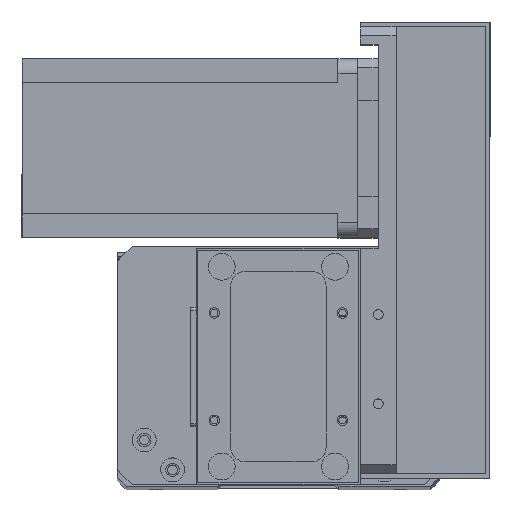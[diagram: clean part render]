
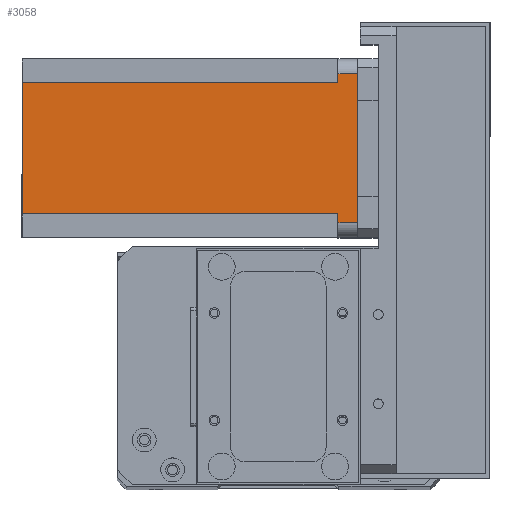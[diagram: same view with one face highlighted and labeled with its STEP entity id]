
A CAD part, top view. The second image highlights one B-rep face of the part: STEP entity #3058.
In plain terms, the highlighted planar face has unit normal (0, 0, 1) as drawn and (0, 1, 0) by its records, which use the part's own axes.
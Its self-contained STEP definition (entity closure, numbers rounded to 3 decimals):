
#168 = ORIENTED_EDGE ( 'NONE', *, *, #20510, .T. ) ;
#602 = DIRECTION ( 'NONE',  ( 0., 0., 1. ) ) ;
#1153 = EDGE_CURVE ( 'NONE', #3404, #27972, #17218, .T. ) ;
#1620 = CARTESIAN_POINT ( 'NONE',  ( 8., 60., -6.5 ) ) ;
#2156 = ORIENTED_EDGE ( 'NONE', *, *, #21351, .F. ) ;
#2426 = DIRECTION ( 'NONE',  ( -1., 0., 0. ) ) ;
#2834 = CARTESIAN_POINT ( 'NONE',  ( 0., 60., -112.5 ) ) ;
#2941 = DIRECTION ( 'NONE',  ( 0., 0., 1. ) ) ;
#2944 = CARTESIAN_POINT ( 'NONE',  ( 8., 60., -112.5 ) ) ;
#3058 = ADVANCED_FACE ( 'NONE', ( #16374 ), #14292, .T. ) ;
#3142 = VERTEX_POINT ( 'NONE', #16888 ) ;
#3285 = LINE ( 'NONE', #17467, #16836 ) ;
#3404 = VERTEX_POINT ( 'NONE', #15475 ) ;
#4067 = ORIENTED_EDGE ( 'NONE', *, *, #27971, .T. ) ;
#4589 = LINE ( 'NONE', #28761, #16705 ) ;
#4644 = ORIENTED_EDGE ( 'NONE', *, *, #23252, .F. ) ;
#4964 = EDGE_CURVE ( 'NONE', #28312, #27972, #3285, .T. ) ;
#6236 = CARTESIAN_POINT ( 'NONE',  ( 5., 60., 0. ) ) ;
#6977 = CARTESIAN_POINT ( 'NONE',  ( 8., 60., -112.5 ) ) ;
#6986 = EDGE_LOOP ( 'NONE', ( #20624, #168, #4644, #2156, #29101, #19843, #4067, #16005 ) ) ;
#7031 = CARTESIAN_POINT ( 'NONE',  ( 0., 60., -112.5 ) ) ;
#7080 = VECTOR ( 'NONE', #22110, 1000. ) ;
#7300 = CARTESIAN_POINT ( 'NONE',  ( 52., 60., -6.5 ) ) ;
#7868 = CARTESIAN_POINT ( 'NONE',  ( 52., 60., -112.5 ) ) ;
#11038 = LINE ( 'NONE', #2944, #29150 ) ;
#11118 = DIRECTION ( 'NONE',  ( 0., 0., 1. ) ) ;
#11308 = VECTOR ( 'NONE', #602, 1000. ) ;
#12909 = DIRECTION ( 'NONE',  ( 0., 0., -1. ) ) ;
#13015 = DIRECTION ( 'NONE',  ( -1., 0., 0. ) ) ;
#13022 = CARTESIAN_POINT ( 'NONE',  ( 52., 60., -6.5 ) ) ;
#13135 = LINE ( 'NONE', #1620, #7080 ) ;
#13360 = VECTOR ( 'NONE', #2426, 1000. ) ;
#13672 = VECTOR ( 'NONE', #27726, 1000. ) ;
#14065 = LINE ( 'NONE', #7031, #13360 ) ;
#14292 = PLANE ( 'NONE',  #24368 ) ;
#15475 = CARTESIAN_POINT ( 'NONE',  ( 5., 60., -6.5 ) ) ;
#16005 = ORIENTED_EDGE ( 'NONE', *, *, #1153, .T. ) ;
#16374 = FACE_OUTER_BOUND ( 'NONE', #6986, .T. ) ;
#16445 = CARTESIAN_POINT ( 'NONE',  ( 55., 60., 0. ) ) ;
#16588 = DIRECTION ( 'NONE',  ( 0., 1., 0. ) ) ;
#16591 = DIRECTION ( 'NONE',  ( 0., 0., -1. ) ) ;
#16705 = VECTOR ( 'NONE', #12909, 1000. ) ;
#16836 = VECTOR ( 'NONE', #13015, 1000. ) ;
#16888 = CARTESIAN_POINT ( 'NONE',  ( 55., 60., -6.5 ) ) ;
#17218 = LINE ( 'NONE', #29275, #22529 ) ;
#17354 = LINE ( 'NONE', #27838, #11308 ) ;
#17467 = CARTESIAN_POINT ( 'NONE',  ( 0., 60., 0. ) ) ;
#17730 = VERTEX_POINT ( 'NONE', #21264 ) ;
#19843 = ORIENTED_EDGE ( 'NONE', *, *, #26428, .F. ) ;
#20510 = EDGE_CURVE ( 'NONE', #28312, #3142, #4589, .T. ) ;
#20624 = ORIENTED_EDGE ( 'NONE', *, *, #4964, .F. ) ;
#21264 = CARTESIAN_POINT ( 'NONE',  ( 8., 60., -6.5 ) ) ;
#21351 = EDGE_CURVE ( 'NONE', #27227, #24759, #17354, .T. ) ;
#21858 = VERTEX_POINT ( 'NONE', #6977 ) ;
#22110 = DIRECTION ( 'NONE',  ( -1., 0., 0. ) ) ;
#22529 = VECTOR ( 'NONE', #11118, 1000. ) ;
#22536 = EDGE_CURVE ( 'NONE', #27227, #21858, #14065, .T. ) ;
#23252 = EDGE_CURVE ( 'NONE', #24759, #3142, #26489, .T. ) ;
#24368 = AXIS2_PLACEMENT_3D ( 'NONE', #2834, #16588, #2941 ) ;
#24759 = VERTEX_POINT ( 'NONE', #13022 ) ;
#26428 = EDGE_CURVE ( 'NONE', #17730, #21858, #11038, .T. ) ;
#26489 = LINE ( 'NONE', #7300, #13672 ) ;
#27227 = VERTEX_POINT ( 'NONE', #7868 ) ;
#27726 = DIRECTION ( 'NONE',  ( 1., 0., 0. ) ) ;
#27838 = CARTESIAN_POINT ( 'NONE',  ( 52., 60., -112.5 ) ) ;
#27972 = VERTEX_POINT ( 'NONE', #6236 ) ;
#27971 = EDGE_CURVE ( 'NONE', #17730, #3404, #13135, .T. ) ;
#28312 = VERTEX_POINT ( 'NONE', #16445 ) ;
#28761 = CARTESIAN_POINT ( 'NONE',  ( 55., 60., -112.5 ) ) ;
#29101 = ORIENTED_EDGE ( 'NONE', *, *, #22536, .T. ) ;
#29150 = VECTOR ( 'NONE', #16591, 1000. ) ;
#29275 = CARTESIAN_POINT ( 'NONE',  ( 5., 60., -112.5 ) ) ;
